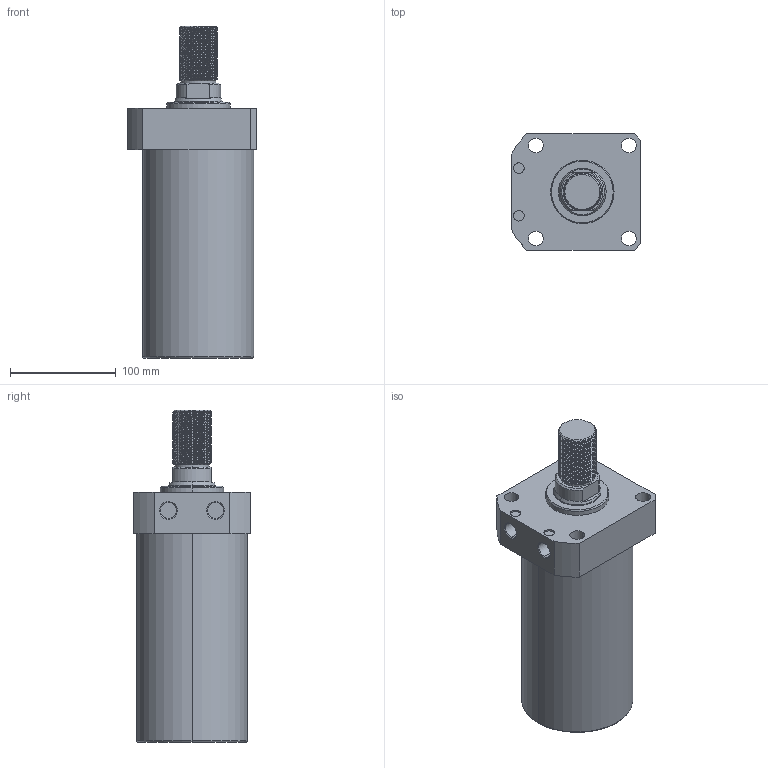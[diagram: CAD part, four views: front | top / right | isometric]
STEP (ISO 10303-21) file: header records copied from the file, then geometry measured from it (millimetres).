
FILE_DESCRIPTION (( 'STEP AP214' ), '1' );
FILE_NAME ('CLLR-105CT-150.STEP', '2020-01-10T06:05:38', ( 'Windows' ), ( 'Microsoft' ), 'SwSTEP 2.0', 'SolidWorks 2015', '' );
FILE_SCHEMA (( 'AUTOMOTIVE_DESIGN' ));
Length unit declared in the file: millimetre
Products named in the file (1): CLLR-105CT-150
Bounding box: 122 x 110 x 314 mm (x, y, z)
Volume: 2278128.5 mm3; surface area: 129439.2 mm2
Topology: 1 solids, 1 shells, 136 faces, 364 edges, 238 vertices
Faces by surface type: cylinder 96, plane 21, cone 15, torus 2, bspline 2
Entity records: 8235 total; most frequent: CARTESIAN_POINT 5104, ORIENTED_EDGE 728, DIRECTION 565, EDGE_CURVE 364, VERTEX_POINT 238, AXIS2_PLACEMENT_3D 215, EDGE_LOOP 152, FACE_OUTER_BOUND 136
